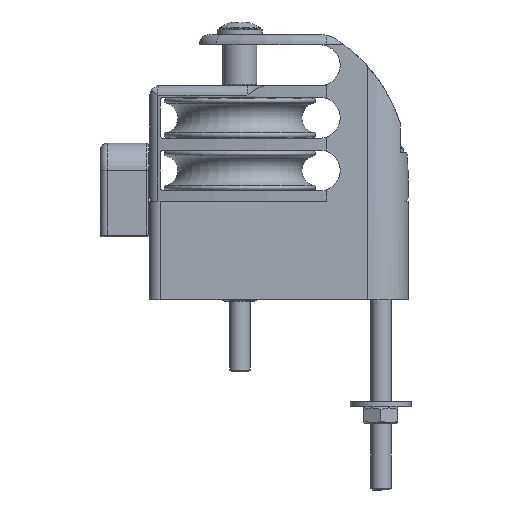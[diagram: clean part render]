
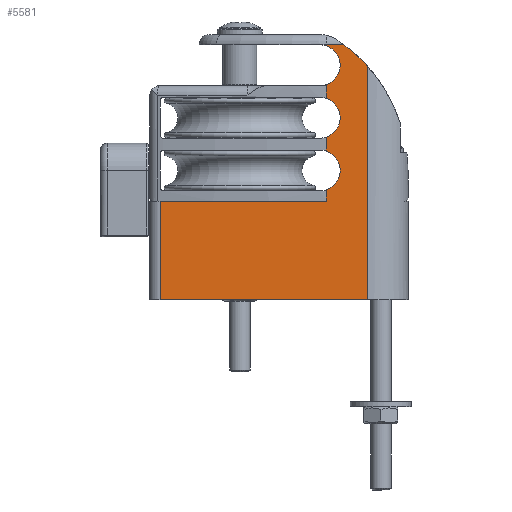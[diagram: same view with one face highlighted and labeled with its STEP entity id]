
A CAD part, front view. The second image highlights one B-rep face of the part: STEP entity #5581.
In plain terms, the highlighted planar face has unit normal (0, -1, 0).
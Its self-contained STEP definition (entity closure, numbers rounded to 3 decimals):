
#162=LINE('',#9466,#415);
#165=LINE('',#9479,#418);
#166=LINE('',#9481,#419);
#167=LINE('',#9485,#420);
#168=LINE('',#9487,#421);
#169=LINE('',#9491,#422);
#170=LINE('',#9493,#423);
#171=LINE('',#9497,#424);
#172=LINE('',#9500,#425);
#173=LINE('',#9501,#426);
#415=VECTOR('',#7343,10.);
#418=VECTOR('',#7356,10.);
#419=VECTOR('',#7357,10.);
#420=VECTOR('',#7360,10.);
#421=VECTOR('',#7361,10.);
#422=VECTOR('',#7364,10.);
#423=VECTOR('',#7365,10.);
#424=VECTOR('',#7368,10.);
#425=VECTOR('',#7371,10.);
#426=VECTOR('',#7372,10.);
#843=PLANE('',#6168);
#1269=FACE_OUTER_BOUND('',#1763,.T.);
#1763=EDGE_LOOP('',(#4394,#4395,#4396,#4397,#4398,#4399,#4400,#4401,#4402,
#4403,#4404,#4405,#4406,#4407));
#2362=CIRCLE('',#6169,47.);
#2363=CIRCLE('',#6170,6.);
#2364=CIRCLE('',#6171,6.);
#2365=CIRCLE('',#6172,6.);
#2802=VERTEX_POINT('',#9463);
#2803=VERTEX_POINT('',#9465);
#2807=VERTEX_POINT('',#9477);
#2808=VERTEX_POINT('',#9478);
#2809=VERTEX_POINT('',#9480);
#2810=VERTEX_POINT('',#9482);
#2811=VERTEX_POINT('',#9484);
#2812=VERTEX_POINT('',#9486);
#2813=VERTEX_POINT('',#9488);
#2814=VERTEX_POINT('',#9490);
#2815=VERTEX_POINT('',#9492);
#2816=VERTEX_POINT('',#9494);
#2817=VERTEX_POINT('',#9496);
#2818=VERTEX_POINT('',#9498);
#3429=EDGE_CURVE('',#2802,#2803,#162,.T.);
#3435=EDGE_CURVE('',#2807,#2808,#165,.T.);
#3436=EDGE_CURVE('',#2808,#2809,#166,.T.);
#3437=EDGE_CURVE('',#2810,#2809,#2362,.T.);
#3438=EDGE_CURVE('',#2810,#2811,#167,.T.);
#3439=EDGE_CURVE('',#2812,#2811,#168,.T.);
#3440=EDGE_CURVE('',#2813,#2812,#2363,.T.);
#3441=EDGE_CURVE('',#2814,#2813,#169,.T.);
#3442=EDGE_CURVE('',#2815,#2814,#170,.T.);
#3443=EDGE_CURVE('',#2816,#2815,#2364,.T.);
#3444=EDGE_CURVE('',#2817,#2816,#171,.T.);
#3445=EDGE_CURVE('',#2818,#2817,#2365,.T.);
#3446=EDGE_CURVE('',#2803,#2818,#172,.T.);
#3447=EDGE_CURVE('',#2807,#2802,#173,.T.);
#4394=ORIENTED_EDGE('',*,*,#3435,.T.);
#4395=ORIENTED_EDGE('',*,*,#3436,.T.);
#4396=ORIENTED_EDGE('',*,*,#3437,.F.);
#4397=ORIENTED_EDGE('',*,*,#3438,.T.);
#4398=ORIENTED_EDGE('',*,*,#3439,.F.);
#4399=ORIENTED_EDGE('',*,*,#3440,.F.);
#4400=ORIENTED_EDGE('',*,*,#3441,.F.);
#4401=ORIENTED_EDGE('',*,*,#3442,.F.);
#4402=ORIENTED_EDGE('',*,*,#3443,.F.);
#4403=ORIENTED_EDGE('',*,*,#3444,.F.);
#4404=ORIENTED_EDGE('',*,*,#3445,.F.);
#4405=ORIENTED_EDGE('',*,*,#3446,.F.);
#4406=ORIENTED_EDGE('',*,*,#3429,.F.);
#4407=ORIENTED_EDGE('',*,*,#3447,.F.);
#5581=ADVANCED_FACE('',(#1269),#843,.T.);
#6168=AXIS2_PLACEMENT_3D('',#9476,#7354,#7355);
#6169=AXIS2_PLACEMENT_3D('',#9483,#7358,#7359);
#6170=AXIS2_PLACEMENT_3D('',#9489,#7362,#7363);
#6171=AXIS2_PLACEMENT_3D('',#9495,#7366,#7367);
#6172=AXIS2_PLACEMENT_3D('',#9499,#7369,#7370);
#7343=DIRECTION('',(1.,0.,0.));
#7354=DIRECTION('center_axis',(0.,-1.,0.));
#7355=DIRECTION('ref_axis',(1.,0.,0.));
#7356=DIRECTION('',(1.,0.,0.));
#7357=DIRECTION('',(0.,0.,1.));
#7358=DIRECTION('center_axis',(0.,1.,0.));
#7359=DIRECTION('ref_axis',(-0.553,0.,-0.833));
#7360=DIRECTION('',(-1.,0.,0.));
#7361=DIRECTION('',(0.,0.,1.));
#7362=DIRECTION('center_axis',(0.,-1.,0.));
#7363=DIRECTION('ref_axis',(0.,0.,1.));
#7364=DIRECTION('',(0.,0.,1.));
#7365=DIRECTION('',(0.,0.,1.));
#7366=DIRECTION('center_axis',(0.,-1.,0.));
#7367=DIRECTION('ref_axis',(0.,0.,
-1.));
#7368=DIRECTION('',(0.,0.,1.));
#7369=DIRECTION('center_axis',(0.,-1.,0.));
#7370=DIRECTION('ref_axis',(0.,0.,
-1.));
#7371=DIRECTION('',(0.,0.,1.));
#7372=DIRECTION('',(0.,0.,1.));
#9463=CARTESIAN_POINT('',(-65.,-20.,29.));
#9465=CARTESIAN_POINT('',(-16.1,-20.,29.));
#9466=CARTESIAN_POINT('',(-65.,-20.,29.));
#9476=CARTESIAN_POINT('Origin',(-65.,-20.,0.));
#9477=CARTESIAN_POINT('',(-65.,-20.,0.));
#9478=CARTESIAN_POINT('',(-4.,-20.,0.));
#9479=CARTESIAN_POINT('',(-65.,-20.,0.));
#9480=CARTESIAN_POINT('',(-4.,-20.,68.699));
#9481=CARTESIAN_POINT('',(-4.,-20.,0.));
#9482=CARTESIAN_POINT('',(-10.894,-20.,75.));
#9483=CARTESIAN_POINT('Origin',(-39.,-20.,37.33));
#9484=CARTESIAN_POINT('',(-16.1,-20.,75.));
#9485=CARTESIAN_POINT('',(-16.1,-20.,75.));
#9486=CARTESIAN_POINT('',(-16.1,-20.,74.691));
#9487=CARTESIAN_POINT('',(-16.1,-20.,29.));
#9488=CARTESIAN_POINT('',(-16.1,-20.,63.309));
#9489=CARTESIAN_POINT('Origin',(-18.,-20.,69.));
#9490=CARTESIAN_POINT('',(-16.1,-20.,63.));
#9491=CARTESIAN_POINT('',(-16.1,-20.,29.));
#9492=CARTESIAN_POINT('',(-16.1,-20.,59.191));
#9493=CARTESIAN_POINT('',(-16.1,-20.,29.));
#9494=CARTESIAN_POINT('',(-16.1,-20.,47.809));
#9495=CARTESIAN_POINT('Origin',(-18.,-20.,53.5));
#9496=CARTESIAN_POINT('',(-16.1,-20.,43.691));
#9497=CARTESIAN_POINT('',(-16.1,-20.,29.));
#9498=CARTESIAN_POINT('',(-16.1,-20.,32.309));
#9499=CARTESIAN_POINT('Origin',(-18.,-20.,38.));
#9500=CARTESIAN_POINT('',(-16.1,-20.,29.));
#9501=CARTESIAN_POINT('',(-65.,-20.,0.));
